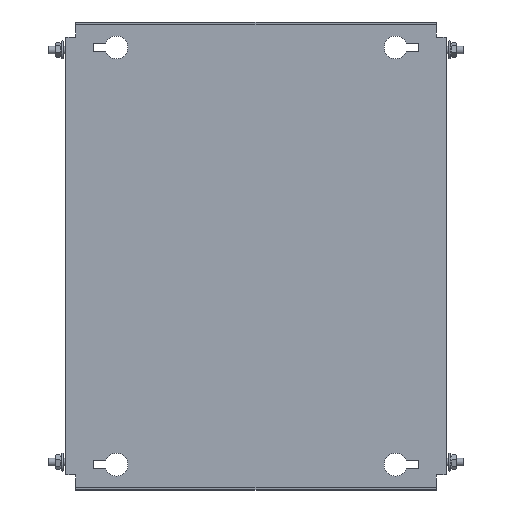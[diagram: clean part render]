
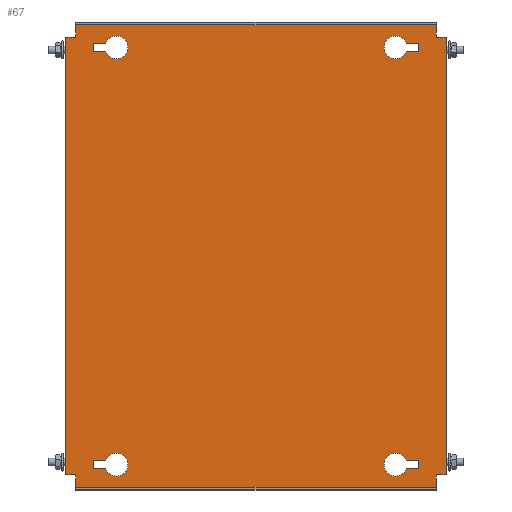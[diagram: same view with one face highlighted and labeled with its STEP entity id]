
A CAD part, top view. The second image highlights one B-rep face of the part: STEP entity #67.
In plain terms, the highlighted planar face has unit normal (0, 0, 1).
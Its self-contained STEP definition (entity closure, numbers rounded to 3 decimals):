
#67 = ADVANCED_FACE('',(#68,#103,#138,#300,#335),#370,.T.);
#68 = FACE_BOUND('',#69,.T.);
#69 = EDGE_LOOP('',(#70,#80,#88,#96));
#70 = ORIENTED_EDGE('',*,*,#71,.T.);
#71 = EDGE_CURVE('',#72,#74,#76,.T.);
#72 = VERTEX_POINT('',#73);
#73 = CARTESIAN_POINT('',(118.393,167.75,2.));
#74 = VERTEX_POINT('',#75);
#75 = CARTESIAN_POINT('',(128.,167.75,2.));
#76 = LINE('',#77,#78);
#77 = CARTESIAN_POINT('',(127.,167.75,2.));
#78 = VECTOR('',#79,1.);
#79 = DIRECTION('',(1.,0.,0.));
#80 = ORIENTED_EDGE('',*,*,#81,.T.);
#81 = EDGE_CURVE('',#74,#82,#84,.T.);
#82 = VERTEX_POINT('',#83);
#83 = CARTESIAN_POINT('',(128.,161.25,2.));
#84 = LINE('',#85,#86);
#85 = CARTESIAN_POINT('',(128.,167.75,2.));
#86 = VECTOR('',#87,1.);
#87 = DIRECTION('',(0.,-1.,0.));
#88 = ORIENTED_EDGE('',*,*,#89,.T.);
#89 = EDGE_CURVE('',#82,#90,#92,.T.);
#90 = VERTEX_POINT('',#91);
#91 = CARTESIAN_POINT('',(118.393,161.25,2.));
#92 = LINE('',#93,#94);
#93 = CARTESIAN_POINT('',(127.,161.25,2.));
#94 = VECTOR('',#95,1.);
#95 = DIRECTION('',(-1.,0.,0.));
#96 = ORIENTED_EDGE('',*,*,#97,.T.);
#97 = EDGE_CURVE('',#90,#72,#98,.T.);
#98 = CIRCLE('',#99,9.);
#99 = AXIS2_PLACEMENT_3D('',#100,#101,#102);
#100 = CARTESIAN_POINT('',(110.,164.5,2.));
#101 = DIRECTION('',(0.,0.,-1.));
#102 = DIRECTION('',(1.,0.,0.));
#103 = FACE_BOUND('',#104,.T.);
#104 = EDGE_LOOP('',(#105,#115,#123,#131));
#105 = ORIENTED_EDGE('',*,*,#106,.T.);
#106 = EDGE_CURVE('',#107,#109,#111,.T.);
#107 = VERTEX_POINT('',#108);
#108 = CARTESIAN_POINT('',(-118.393,-167.75,2.));
#109 = VERTEX_POINT('',#110);
#110 = CARTESIAN_POINT('',(-128.,-167.75,2.));
#111 = LINE('',#112,#113);
#112 = CARTESIAN_POINT('',(-127.,-167.75,2.));
#113 = VECTOR('',#114,1.);
#114 = DIRECTION('',(-1.,0.,0.));
#115 = ORIENTED_EDGE('',*,*,#116,.T.);
#116 = EDGE_CURVE('',#109,#117,#119,.T.);
#117 = VERTEX_POINT('',#118);
#118 = CARTESIAN_POINT('',(-128.,-161.25,2.));
#119 = LINE('',#120,#121);
#120 = CARTESIAN_POINT('',(-128.,-167.75,2.));
#121 = VECTOR('',#122,1.);
#122 = DIRECTION('',(0.,1.,0.));
#123 = ORIENTED_EDGE('',*,*,#124,.T.);
#124 = EDGE_CURVE('',#117,#125,#127,.T.);
#125 = VERTEX_POINT('',#126);
#126 = CARTESIAN_POINT('',(-118.393,-161.25,2.));
#127 = LINE('',#128,#129);
#128 = CARTESIAN_POINT('',(-127.,-161.25,2.));
#129 = VECTOR('',#130,1.);
#130 = DIRECTION('',(1.,-0.,-0.));
#131 = ORIENTED_EDGE('',*,*,#132,.T.);
#132 = EDGE_CURVE('',#125,#107,#133,.T.);
#133 = CIRCLE('',#134,9.);
#134 = AXIS2_PLACEMENT_3D('',#135,#136,#137);
#135 = CARTESIAN_POINT('',(-110.,-164.5,2.));
#136 = DIRECTION('',(0.,0.,-1.));
#137 = DIRECTION('',(-1.,0.,0.));
#138 = FACE_BOUND('',#139,.T.);
#139 = EDGE_LOOP('',(#140,#150,#158,#166,#174,#182,#190,#198,#206,#214,
    #222,#230,#238,#246,#254,#262,#270,#278,#286,#294));
#140 = ORIENTED_EDGE('',*,*,#141,.F.);
#141 = EDGE_CURVE('',#142,#144,#146,.T.);
#142 = VERTEX_POINT('',#143);
#143 = CARTESIAN_POINT('',(-147.4,172.5,2.));
#144 = VERTEX_POINT('',#145);
#145 = CARTESIAN_POINT('',(-142.,172.5,2.));
#146 = LINE('',#147,#148);
#147 = CARTESIAN_POINT('',(-148.,172.5,2.));
#148 = VECTOR('',#149,1.);
#149 = DIRECTION('',(1.,0.,-0.));
#150 = ORIENTED_EDGE('',*,*,#151,.T.);
#151 = EDGE_CURVE('',#142,#152,#154,.T.);
#152 = VERTEX_POINT('',#153);
#153 = CARTESIAN_POINT('',(-150.,172.5,2.));
#154 = LINE('',#155,#156);
#155 = CARTESIAN_POINT('',(-147.4,172.5,2.));
#156 = VECTOR('',#157,1.);
#157 = DIRECTION('',(-1.,0.,0.));
#158 = ORIENTED_EDGE('',*,*,#159,.F.);
#159 = EDGE_CURVE('',#160,#152,#162,.T.);
#160 = VERTEX_POINT('',#161);
#161 = CARTESIAN_POINT('',(-150.,-172.5,2.));
#162 = LINE('',#163,#164);
#163 = CARTESIAN_POINT('',(-150.,-182.5,2.));
#164 = VECTOR('',#165,1.);
#165 = DIRECTION('',(0.,1.,-0.));
#166 = ORIENTED_EDGE('',*,*,#167,.F.);
#167 = EDGE_CURVE('',#168,#160,#170,.T.);
#168 = VERTEX_POINT('',#169);
#169 = CARTESIAN_POINT('',(-147.4,-172.5,2.));
#170 = LINE('',#171,#172);
#171 = CARTESIAN_POINT('',(-142.,-172.5,2.));
#172 = VECTOR('',#173,1.);
#173 = DIRECTION('',(-1.,-0.,-0.));
#174 = ORIENTED_EDGE('',*,*,#175,.T.);
#175 = EDGE_CURVE('',#168,#176,#178,.T.);
#176 = VERTEX_POINT('',#177);
#177 = CARTESIAN_POINT('',(-142.,-172.5,2.));
#178 = LINE('',#179,#180);
#179 = CARTESIAN_POINT('',(-148.,-172.5,2.));
#180 = VECTOR('',#181,1.);
#181 = DIRECTION('',(1.,0.,-0.));
#182 = ORIENTED_EDGE('',*,*,#183,.T.);
#183 = EDGE_CURVE('',#176,#184,#186,.T.);
#184 = VERTEX_POINT('',#185);
#185 = CARTESIAN_POINT('',(-142.,-181.9,2.));
#186 = LINE('',#187,#188);
#187 = CARTESIAN_POINT('',(-142.,182.5,2.));
#188 = VECTOR('',#189,1.);
#189 = DIRECTION('',(0.,-1.,0.));
#190 = ORIENTED_EDGE('',*,*,#191,.T.);
#191 = EDGE_CURVE('',#184,#192,#194,.T.);
#192 = VERTEX_POINT('',#193);
#193 = CARTESIAN_POINT('',(-142.,-182.5,2.));
#194 = LINE('',#195,#196);
#195 = CARTESIAN_POINT('',(-142.,-181.9,2.));
#196 = VECTOR('',#197,1.);
#197 = DIRECTION('',(-0.,-1.,-0.));
#198 = ORIENTED_EDGE('',*,*,#199,.T.);
#199 = EDGE_CURVE('',#192,#200,#202,.T.);
#200 = VERTEX_POINT('',#201);
#201 = CARTESIAN_POINT('',(142.,-182.5,2.));
#202 = LINE('',#203,#204);
#203 = CARTESIAN_POINT('',(142.,-182.5,2.));
#204 = VECTOR('',#205,1.);
#205 = DIRECTION('',(1.,0.,0.));
#206 = ORIENTED_EDGE('',*,*,#207,.F.);
#207 = EDGE_CURVE('',#208,#200,#210,.T.);
#208 = VERTEX_POINT('',#209);
#209 = CARTESIAN_POINT('',(142.,-181.9,2.));
#210 = LINE('',#211,#212);
#211 = CARTESIAN_POINT('',(142.,-182.5,2.));
#212 = VECTOR('',#213,1.);
#213 = DIRECTION('',(0.,-1.,0.));
#214 = ORIENTED_EDGE('',*,*,#215,.T.);
#215 = EDGE_CURVE('',#208,#216,#218,.T.);
#216 = VERTEX_POINT('',#217);
#217 = CARTESIAN_POINT('',(142.,-172.5,2.));
#218 = LINE('',#219,#220);
#219 = CARTESIAN_POINT('',(142.,182.5,2.));
#220 = VECTOR('',#221,1.);
#221 = DIRECTION('',(0.,1.,-0.));
#222 = ORIENTED_EDGE('',*,*,#223,.F.);
#223 = EDGE_CURVE('',#224,#216,#226,.T.);
#224 = VERTEX_POINT('',#225);
#225 = CARTESIAN_POINT('',(147.4,-172.5,2.));
#226 = LINE('',#227,#228);
#227 = CARTESIAN_POINT('',(148.,-172.5,2.));
#228 = VECTOR('',#229,1.);
#229 = DIRECTION('',(-1.,0.,-0.));
#230 = ORIENTED_EDGE('',*,*,#231,.T.);
#231 = EDGE_CURVE('',#224,#232,#234,.T.);
#232 = VERTEX_POINT('',#233);
#233 = CARTESIAN_POINT('',(150.,-172.5,2.));
#234 = LINE('',#235,#236);
#235 = CARTESIAN_POINT('',(147.4,-172.5,2.));
#236 = VECTOR('',#237,1.);
#237 = DIRECTION('',(1.,-0.,0.));
#238 = ORIENTED_EDGE('',*,*,#239,.F.);
#239 = EDGE_CURVE('',#240,#232,#242,.T.);
#240 = VERTEX_POINT('',#241);
#241 = CARTESIAN_POINT('',(150.,172.5,2.));
#242 = LINE('',#243,#244);
#243 = CARTESIAN_POINT('',(150.,-182.5,2.));
#244 = VECTOR('',#245,1.);
#245 = DIRECTION('',(0.,-1.,-0.));
#246 = ORIENTED_EDGE('',*,*,#247,.F.);
#247 = EDGE_CURVE('',#248,#240,#250,.T.);
#248 = VERTEX_POINT('',#249);
#249 = CARTESIAN_POINT('',(147.4,172.5,2.));
#250 = LINE('',#251,#252);
#251 = CARTESIAN_POINT('',(-142.,172.5,2.));
#252 = VECTOR('',#253,1.);
#253 = DIRECTION('',(1.,-0.,0.));
#254 = ORIENTED_EDGE('',*,*,#255,.T.);
#255 = EDGE_CURVE('',#248,#256,#258,.T.);
#256 = VERTEX_POINT('',#257);
#257 = CARTESIAN_POINT('',(142.,172.5,2.));
#258 = LINE('',#259,#260);
#259 = CARTESIAN_POINT('',(148.,172.5,2.));
#260 = VECTOR('',#261,1.);
#261 = DIRECTION('',(-1.,0.,-0.));
#262 = ORIENTED_EDGE('',*,*,#263,.T.);
#263 = EDGE_CURVE('',#256,#264,#266,.T.);
#264 = VERTEX_POINT('',#265);
#265 = CARTESIAN_POINT('',(142.,181.9,2.));
#266 = LINE('',#267,#268);
#267 = CARTESIAN_POINT('',(142.,182.5,2.));
#268 = VECTOR('',#269,1.);
#269 = DIRECTION('',(0.,1.,-0.));
#270 = ORIENTED_EDGE('',*,*,#271,.T.);
#271 = EDGE_CURVE('',#264,#272,#274,.T.);
#272 = VERTEX_POINT('',#273);
#273 = CARTESIAN_POINT('',(142.,182.5,2.));
#274 = LINE('',#275,#276);
#275 = CARTESIAN_POINT('',(142.,181.9,2.));
#276 = VECTOR('',#277,1.);
#277 = DIRECTION('',(-0.,1.,-0.));
#278 = ORIENTED_EDGE('',*,*,#279,.T.);
#279 = EDGE_CURVE('',#272,#280,#282,.T.);
#280 = VERTEX_POINT('',#281);
#281 = CARTESIAN_POINT('',(-142.,182.5,2.));
#282 = LINE('',#283,#284);
#283 = CARTESIAN_POINT('',(-142.,182.5,2.));
#284 = VECTOR('',#285,1.);
#285 = DIRECTION('',(-1.,0.,0.));
#286 = ORIENTED_EDGE('',*,*,#287,.F.);
#287 = EDGE_CURVE('',#288,#280,#290,.T.);
#288 = VERTEX_POINT('',#289);
#289 = CARTESIAN_POINT('',(-142.,181.9,2.));
#290 = LINE('',#291,#292);
#291 = CARTESIAN_POINT('',(-142.,-182.5,2.));
#292 = VECTOR('',#293,1.);
#293 = DIRECTION('',(0.,1.,-0.));
#294 = ORIENTED_EDGE('',*,*,#295,.T.);
#295 = EDGE_CURVE('',#288,#144,#296,.T.);
#296 = LINE('',#297,#298);
#297 = CARTESIAN_POINT('',(-142.,182.5,2.));
#298 = VECTOR('',#299,1.);
#299 = DIRECTION('',(0.,-1.,0.));
#300 = FACE_BOUND('',#301,.T.);
#301 = EDGE_LOOP('',(#302,#312,#320,#328));
#302 = ORIENTED_EDGE('',*,*,#303,.F.);
#303 = EDGE_CURVE('',#304,#306,#308,.T.);
#304 = VERTEX_POINT('',#305);
#305 = CARTESIAN_POINT('',(128.,-161.25,2.));
#306 = VERTEX_POINT('',#307);
#307 = CARTESIAN_POINT('',(118.393,-161.25,2.));
#308 = LINE('',#309,#310);
#309 = CARTESIAN_POINT('',(118.393,-161.25,2.));
#310 = VECTOR('',#311,1.);
#311 = DIRECTION('',(-1.,0.,0.));
#312 = ORIENTED_EDGE('',*,*,#313,.F.);
#313 = EDGE_CURVE('',#314,#304,#316,.T.);
#314 = VERTEX_POINT('',#315);
#315 = CARTESIAN_POINT('',(128.,-167.75,2.));
#316 = LINE('',#317,#318);
#317 = CARTESIAN_POINT('',(128.,-161.25,2.));
#318 = VECTOR('',#319,1.);
#319 = DIRECTION('',(0.,1.,0.));
#320 = ORIENTED_EDGE('',*,*,#321,.F.);
#321 = EDGE_CURVE('',#322,#314,#324,.T.);
#322 = VERTEX_POINT('',#323);
#323 = CARTESIAN_POINT('',(118.393,-167.75,2.));
#324 = LINE('',#325,#326);
#325 = CARTESIAN_POINT('',(127.,-167.75,2.));
#326 = VECTOR('',#327,1.);
#327 = DIRECTION('',(1.,0.,0.));
#328 = ORIENTED_EDGE('',*,*,#329,.F.);
#329 = EDGE_CURVE('',#306,#322,#330,.T.);
#330 = CIRCLE('',#331,9.);
#331 = AXIS2_PLACEMENT_3D('',#332,#333,#334);
#332 = CARTESIAN_POINT('',(110.,-164.5,2.));
#333 = DIRECTION('',(0.,-0.,1.));
#334 = DIRECTION('',(1.,0.,0.));
#335 = FACE_BOUND('',#336,.T.);
#336 = EDGE_LOOP('',(#337,#347,#355,#363));
#337 = ORIENTED_EDGE('',*,*,#338,.F.);
#338 = EDGE_CURVE('',#339,#341,#343,.T.);
#339 = VERTEX_POINT('',#340);
#340 = CARTESIAN_POINT('',(-128.,161.25,2.));
#341 = VERTEX_POINT('',#342);
#342 = CARTESIAN_POINT('',(-118.393,161.25,2.));
#343 = LINE('',#344,#345);
#344 = CARTESIAN_POINT('',(-118.393,161.25,2.));
#345 = VECTOR('',#346,1.);
#346 = DIRECTION('',(1.,0.,0.));
#347 = ORIENTED_EDGE('',*,*,#348,.F.);
#348 = EDGE_CURVE('',#349,#339,#351,.T.);
#349 = VERTEX_POINT('',#350);
#350 = CARTESIAN_POINT('',(-128.,167.75,2.));
#351 = LINE('',#352,#353);
#352 = CARTESIAN_POINT('',(-128.,161.25,2.));
#353 = VECTOR('',#354,1.);
#354 = DIRECTION('',(0.,-1.,0.));
#355 = ORIENTED_EDGE('',*,*,#356,.F.);
#356 = EDGE_CURVE('',#357,#349,#359,.T.);
#357 = VERTEX_POINT('',#358);
#358 = CARTESIAN_POINT('',(-118.393,167.75,2.));
#359 = LINE('',#360,#361);
#360 = CARTESIAN_POINT('',(-127.,167.75,2.));
#361 = VECTOR('',#362,1.);
#362 = DIRECTION('',(-1.,0.,0.));
#363 = ORIENTED_EDGE('',*,*,#364,.F.);
#364 = EDGE_CURVE('',#341,#357,#365,.T.);
#365 = CIRCLE('',#366,9.);
#366 = AXIS2_PLACEMENT_3D('',#367,#368,#369);
#367 = CARTESIAN_POINT('',(-110.,164.5,2.));
#368 = DIRECTION('',(0.,-0.,1.));
#369 = DIRECTION('',(-1.,0.,0.));
#370 = PLANE('',#371);
#371 = AXIS2_PLACEMENT_3D('',#372,#373,#374);
#372 = CARTESIAN_POINT('',(-142.,-182.5,2.));
#373 = DIRECTION('',(-0.,0.,1.));
#374 = DIRECTION('',(1.,0.,0.));
